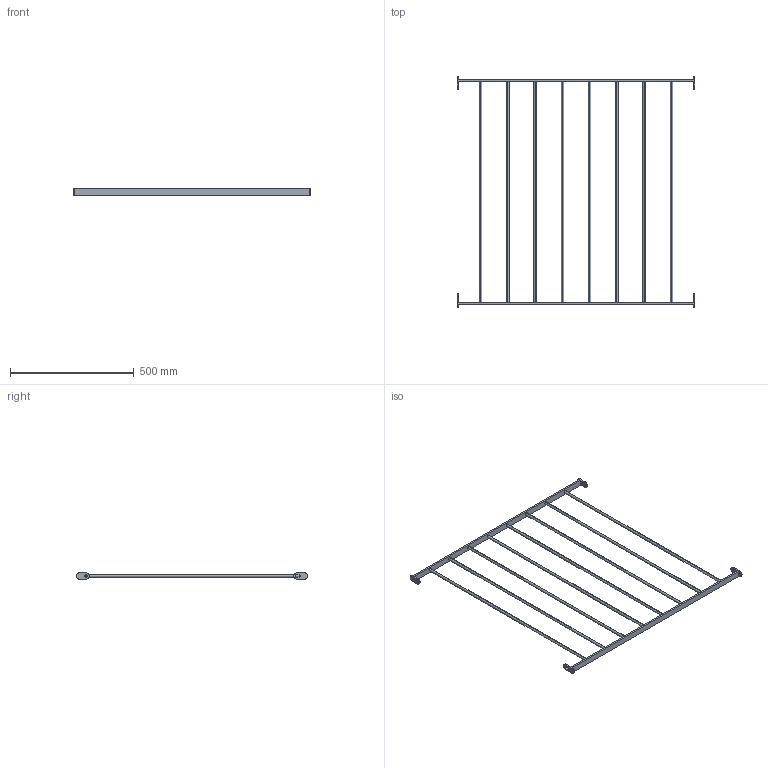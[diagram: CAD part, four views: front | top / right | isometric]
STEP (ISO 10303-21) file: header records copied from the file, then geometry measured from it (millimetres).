
FILE_DESCRIPTION (( 'STEP AP203' ), '1' );
FILE_NAME ('Rundstångräcke 960.STEP', '2014-09-26T06:38:37', ( '' ), ( '' ), 'SwSTEP 2.0', 'SolidWorks 2014', '' );
FILE_SCHEMA (( 'CONFIG_CONTROL_DESIGN' ));
Length unit declared in the file: millimetre
Products named in the file (1): Rundst幩gr踄ke 960
Bounding box: 960 x 935 x 25 mm (x, y, z)
Volume: 1082174 mm3; surface area: 382852.6 mm2
Topology: 1 solids, 1 shells, 56 faces, 148 edges, 96 vertices
Faces by surface type: cylinder 32, plane 24
Entity records: 1873 total; most frequent: DIRECTION 326, CARTESIAN_POINT 301, ORIENTED_EDGE 296, EDGE_CURVE 148, AXIS2_PLACEMENT_3D 121, VERTEX_POINT 96, LINE 84, VECTOR 84
